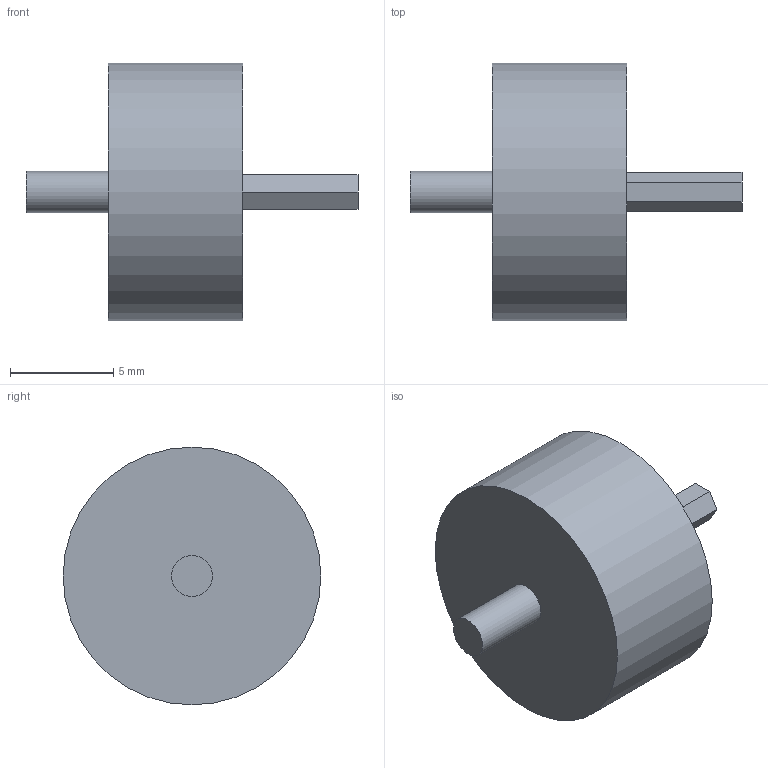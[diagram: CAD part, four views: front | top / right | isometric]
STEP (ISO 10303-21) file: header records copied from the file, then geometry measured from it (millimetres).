
FILE_DESCRIPTION(('Open CASCADE Model'),'2;1');
FILE_NAME('Open CASCADE Shape Model','2026-10-16T20:10:44',('Author'),( 'Open CASCADE'),'Open CASCADE STEP processor 7.9','Open CASCADE 7.9' ,'Unknown');
FILE_SCHEMA(('AUTOMOTIVE_DESIGN { 1 0 10303 214 1 1 1 1 }'));
Length unit declared in the file: millimetre
Products named in the file (1): Open CASCADE STEP translator 7.9 16
Bounding box: 16.1 x 12.5 x 12.5 mm (x, y, z)
Volume: 823.8 mm3; surface area: 558.2 mm2
Topology: 1 solids, 1 shells, 12 faces, 24 edges, 16 vertices
Faces by surface type: plane 10, cylinder 2
Full cylindrical faces by diameter (mm): 2 x1, 12.5 x1
Entity records: 646 total; most frequent: CARTESIAN_POINT 125, DIRECTION 98, LINE 64, VECTOR 64, ORIENTED_EDGE 48, PCURVE 48, DEFINITIONAL_REPRESENTATION 48, EDGE_CURVE 24
